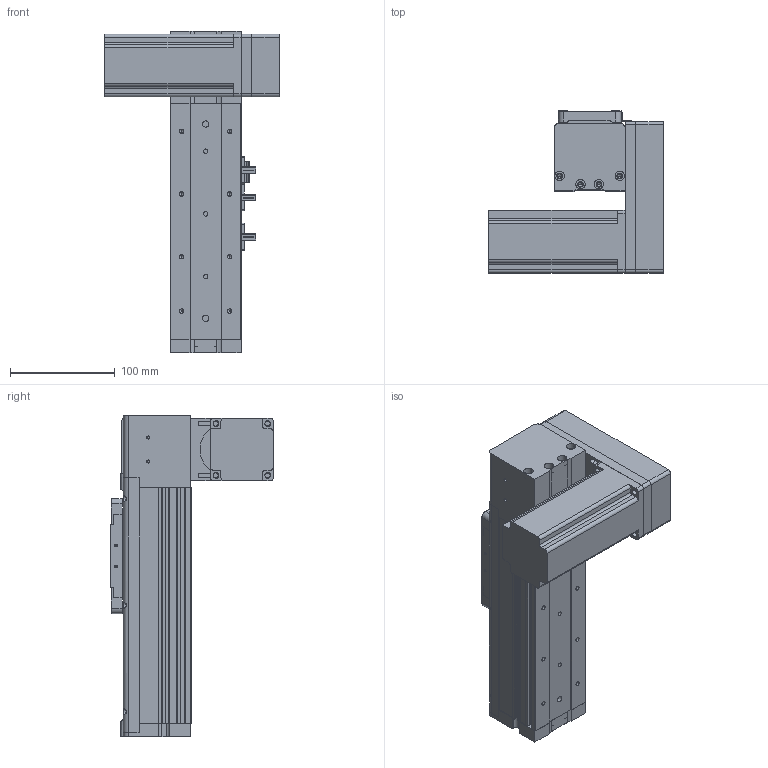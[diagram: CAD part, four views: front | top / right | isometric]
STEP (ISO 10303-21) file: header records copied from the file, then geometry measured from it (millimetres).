
FILE_DESCRIPTION (( 'STEP AP214' ), '1' );
FILE_NAME ('KSD68BS-S50-MLD-CR.STEP', '2019-08-27T03:19:47', ( '微软用户' ), ( '微软中国' ), 'SwSTEP 2.0', 'SolidWorks 2014', '' );
FILE_SCHEMA (( 'AUTOMOTIVE_DESIGN' ));
Length unit declared in the file: millimetre
Products named in the file (14): 68宽马达安装板连板上折同步带; 感应片68宽全封闭; U倰嫖萇EEㄜSX672; 台达ECMA－C20604AS伺服电机（400W); KSD68BS 50行程底板全封闭; KSD68BS-S50-MLD-CR; 68遵裔啣揤啣1; 68宽单导轨全封闭丝杆传动安装板1防护罩; KSD68BS 50行程侧板全封闭; KSD68BS 50行程盖板全封闭; 68宽单导轨全封闭同步带端板; 68单导轨全封闭同步带电机座左; 68单导轨全封闭同步带安装板; 悵誘欶奻狟殏
Assembly tree (17 placements, depth 2):
  KSD68BS-S50-MLD-CR
    KSD68BS 50行程底板全封闭
    台达ECMA－C20604AS伺服电机（400W)
    U倰嫖萇EEㄜSX672  x3
    感应片68宽全封闭
    68宽马达安装板连板上折同步带
    悵誘欶奻狟殏
    68单导轨全封闭同步带安装板
    68单导轨全封闭同步带电机座左
    68宽单导轨全封闭同步带端板
    KSD68BS 50行程侧板全封闭  x2
    68宽单导轨全封闭丝杆传动安装板1防护罩
    68遵裔啣揤啣1  x2
    KSD68BS 50行程盖板全封闭
Bounding box: 167.2 x 155.5 x 308.1 mm (x, y, z)
Volume: 1256364 mm3; surface area: 368261.7 mm2
Topology: 18 solids, 18 shells, 1349 faces, 3779 edges, 2434 vertices
Faces by surface type: plane 621, cylinder 600, cone 128
Entity records: 41335 total; most frequent: CARTESIAN_POINT 6949, DIRECTION 6266, ORIENTED_EDGE 6010, EDGE_CURVE 3005, AXIS2_PLACEMENT_3D 2219, VERTEX_POINT 1972, LINE 1828, VECTOR 1828
